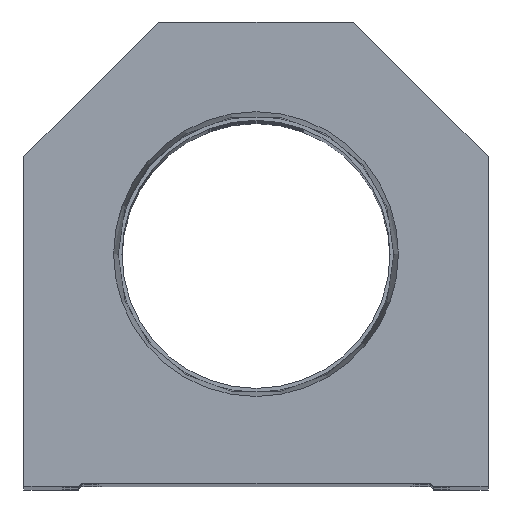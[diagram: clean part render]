
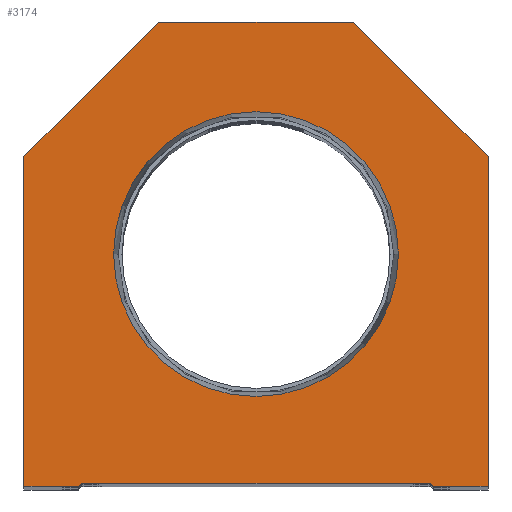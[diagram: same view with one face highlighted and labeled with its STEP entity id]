
A CAD part, top view. The second image highlights one B-rep face of the part: STEP entity #3174.
In plain terms, the highlighted planar face has unit normal (0, 0, 1).
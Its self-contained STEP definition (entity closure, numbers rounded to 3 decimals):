
#100 = VECTOR ( 'NONE', #14778, 1000. ) ;
#787 = FACE_OUTER_BOUND ( 'NONE', #3167, .T. ) ;
#852 = DIRECTION ( 'NONE',  ( 1., 0., 0. ) ) ;
#959 = LINE ( 'NONE', #3890, #4381 ) ;
#964 = VERTEX_POINT ( 'NONE', #7971 ) ;
#1037 = CARTESIAN_POINT ( 'NONE',  ( 38.1, 54.1, 0. ) ) ;
#1244 = CARTESIAN_POINT ( 'NONE',  ( 16., 76.2, 0. ) ) ;
#1294 = CARTESIAN_POINT ( 'NONE',  ( 0., 38.1, 0. ) ) ;
#1385 = VERTEX_POINT ( 'NONE', #8736 ) ;
#1424 = EDGE_CURVE ( 'NONE', #8581, #964, #12754, .T. ) ;
#1603 = DIRECTION ( 'NONE',  ( 0., 0., 1. ) ) ;
#1741 = LINE ( 'NONE', #6975, #3119 ) ;
#2045 = VERTEX_POINT ( 'NONE', #12343 ) ;
#2082 = VECTOR ( 'NONE', #852, 1000. ) ;
#2110 = LINE ( 'NONE', #10195, #2082 ) ;
#2370 = DIRECTION ( 'NONE',  ( 0., 1., 0. ) ) ;
#2538 = DIRECTION ( 'NONE',  ( 0., 0., 1. ) ) ;
#2572 = LINE ( 'NONE', #9235, #100 ) ;
#2985 = VERTEX_POINT ( 'NONE', #4118 ) ;
#3119 = VECTOR ( 'NONE', #16625, 1000. ) ;
#3167 = EDGE_LOOP ( 'NONE', ( #12952, #7409, #11271, #3854, #14501, #16776, #11360, #9105, #9264, #14486 ) ) ;
#3174 = ADVANCED_FACE ( 'NONE', ( #11742, #787 ), #3558, .T. ) ;
#3418 = CARTESIAN_POINT ( 'NONE',  ( 38.1, 54.1, 0. ) ) ;
#3558 = PLANE ( 'NONE',  #10035 ) ;
#3854 = ORIENTED_EDGE ( 'NONE', *, *, #10520, .T. ) ;
#3890 = CARTESIAN_POINT ( 'NONE',  ( 28.6, 0., 0. ) ) ;
#4118 = CARTESIAN_POINT ( 'NONE',  ( 16., 76.2, 0. ) ) ;
#4381 = VECTOR ( 'NONE', #12077, 1000. ) ;
#4681 = ORIENTED_EDGE ( 'NONE', *, *, #12278, .F. ) ;
#4799 = DIRECTION ( 'NONE',  ( 0., 0., 1. ) ) ;
#4836 = CARTESIAN_POINT ( 'NONE',  ( -29.1, 0., 0. ) ) ;
#4916 = AXIS2_PLACEMENT_3D ( 'NONE', #1294, #2538, #10611 ) ;
#5062 = DIRECTION ( 'NONE',  ( 0.707, -0.707, 0. ) ) ;
#5117 = EDGE_LOOP ( 'NONE', ( #17050, #4681 ) ) ;
#5829 = VECTOR ( 'NONE', #9332, 1000. ) ;
#5970 = VERTEX_POINT ( 'NONE', #6505 ) ;
#6051 = VECTOR ( 'NONE', #5062, 1000. ) ;
#6505 = CARTESIAN_POINT ( 'NONE',  ( 38.1, 0., 0. ) ) ;
#6786 = CARTESIAN_POINT ( 'NONE',  ( 38.1, 0., 0. ) ) ;
#6975 = CARTESIAN_POINT ( 'NONE',  ( -38.1, 54.1, 0. ) ) ;
#7409 = ORIENTED_EDGE ( 'NONE', *, *, #1424, .T. ) ;
#7609 = VERTEX_POINT ( 'NONE', #16988 ) ;
#7858 = LINE ( 'NONE', #6786, #13275 ) ;
#7892 = LINE ( 'NONE', #1244, #5829 ) ;
#7971 = CARTESIAN_POINT ( 'NONE',  ( -28.6, 0.5, 0. ) ) ;
#8374 = VERTEX_POINT ( 'NONE', #9215 ) ;
#8445 = EDGE_CURVE ( 'NONE', #8374, #1385, #1741, .T. ) ;
#8581 = VERTEX_POINT ( 'NONE', #4836 ) ;
#8736 = CARTESIAN_POINT ( 'NONE',  ( -38.1, 54.1, 0. ) ) ;
#9105 = ORIENTED_EDGE ( 'NONE', *, *, #15658, .T. ) ;
#9215 = CARTESIAN_POINT ( 'NONE',  ( -16., 76.2, 0. ) ) ;
#9235 = CARTESIAN_POINT ( 'NONE',  ( -28.6, 0., 0. ) ) ;
#9264 = ORIENTED_EDGE ( 'NONE', *, *, #8445, .T. ) ;
#9332 = DIRECTION ( 'NONE',  ( -1., 0., 0. ) ) ;
#9782 = CARTESIAN_POINT ( 'NONE',  ( -38.1, 0., 0. ) ) ;
#9959 = DIRECTION ( 'NONE',  ( 0., -1., 0. ) ) ;
#10017 = VERTEX_POINT ( 'NONE', #1037 ) ;
#10035 = AXIS2_PLACEMENT_3D ( 'NONE', #14679, #4799, #14506 ) ;
#10195 = CARTESIAN_POINT ( 'NONE',  ( -28.6, 0.5, 0. ) ) ;
#10337 = EDGE_CURVE ( 'NONE', #1385, #12105, #15327, .T. ) ;
#10520 = EDGE_CURVE ( 'NONE', #10996, #15682, #17266, .T. ) ;
#10611 = DIRECTION ( 'NONE',  ( 1., 0., 0. ) ) ;
#10845 = CARTESIAN_POINT ( 'NONE',  ( 29.1, 0., 0. ) ) ;
#10996 = VERTEX_POINT ( 'NONE', #11716 ) ;
#11218 = EDGE_CURVE ( 'NONE', #10017, #2985, #16951, .T. ) ;
#11271 = ORIENTED_EDGE ( 'NONE', *, *, #11775, .T. ) ;
#11360 = ORIENTED_EDGE ( 'NONE', *, *, #11218, .T. ) ;
#11716 = CARTESIAN_POINT ( 'NONE',  ( 28.6, 0.5, 0. ) ) ;
#11742 = FACE_BOUND ( 'NONE', #5117, .T. ) ;
#11775 = EDGE_CURVE ( 'NONE', #964, #10996, #2110, .T. ) ;
#11776 = DIRECTION ( 'NONE',  ( 0.707, 0.707, 0. ) ) ;
#11873 = EDGE_CURVE ( 'NONE', #5970, #10017, #7858, .T. ) ;
#12077 = DIRECTION ( 'NONE',  ( 1., 0., 0. ) ) ;
#12094 = CARTESIAN_POINT ( 'NONE',  ( 14.55, 14.55, 0. ) ) ;
#12105 = VERTEX_POINT ( 'NONE', #16034 ) ;
#12278 = EDGE_CURVE ( 'NONE', #2045, #7609, #12940, .T. ) ;
#12343 = CARTESIAN_POINT ( 'NONE',  ( -23.374, 38.1, 0. ) ) ;
#12408 = VECTOR ( 'NONE', #12937, 1000. ) ;
#12754 = LINE ( 'NONE', #15784, #15872 ) ;
#12937 = DIRECTION ( 'NONE',  ( -0.707, 0.707, 0. ) ) ;
#12940 = CIRCLE ( 'NONE', #14649, 23.374 ) ;
#12952 = ORIENTED_EDGE ( 'NONE', *, *, #14836, .T. ) ;
#13275 = VECTOR ( 'NONE', #2370, 1000. ) ;
#13791 = VECTOR ( 'NONE', #9959, 1000. ) ;
#14090 = CIRCLE ( 'NONE', #4916, 23.374 ) ;
#14486 = ORIENTED_EDGE ( 'NONE', *, *, #10337, .T. ) ;
#14501 = ORIENTED_EDGE ( 'NONE', *, *, #16555, .T. ) ;
#14506 = DIRECTION ( 'NONE',  ( 1., 0., 0. ) ) ;
#14572 = EDGE_CURVE ( 'NONE', #7609, #2045, #14090, .T. ) ;
#14649 = AXIS2_PLACEMENT_3D ( 'NONE', #14976, #1603, #16305 ) ;
#14679 = CARTESIAN_POINT ( 'NONE',  ( 0., 0., 0. ) ) ;
#14778 = DIRECTION ( 'NONE',  ( 1., 0., 0. ) ) ;
#14836 = EDGE_CURVE ( 'NONE', #12105, #8581, #2572, .T. ) ;
#14976 = CARTESIAN_POINT ( 'NONE',  ( 0., 38.1, 0. ) ) ;
#15327 = LINE ( 'NONE', #9782, #13791 ) ;
#15658 = EDGE_CURVE ( 'NONE', #2985, #8374, #7892, .T. ) ;
#15682 = VERTEX_POINT ( 'NONE', #10845 ) ;
#15784 = CARTESIAN_POINT ( 'NONE',  ( -14.55, 14.55, 0. ) ) ;
#15872 = VECTOR ( 'NONE', #11776, 1000. ) ;
#16034 = CARTESIAN_POINT ( 'NONE',  ( -38.1, 0., 0. ) ) ;
#16305 = DIRECTION ( 'NONE',  ( 1., 0., 0. ) ) ;
#16555 = EDGE_CURVE ( 'NONE', #15682, #5970, #959, .T. ) ;
#16625 = DIRECTION ( 'NONE',  ( -0.707, -0.707, 0. ) ) ;
#16776 = ORIENTED_EDGE ( 'NONE', *, *, #11873, .T. ) ;
#16951 = LINE ( 'NONE', #3418, #12408 ) ;
#16988 = CARTESIAN_POINT ( 'NONE',  ( 23.374, 38.1, 0. ) ) ;
#17050 = ORIENTED_EDGE ( 'NONE', *, *, #14572, .F. ) ;
#17266 = LINE ( 'NONE', #12094, #6051 ) ;
